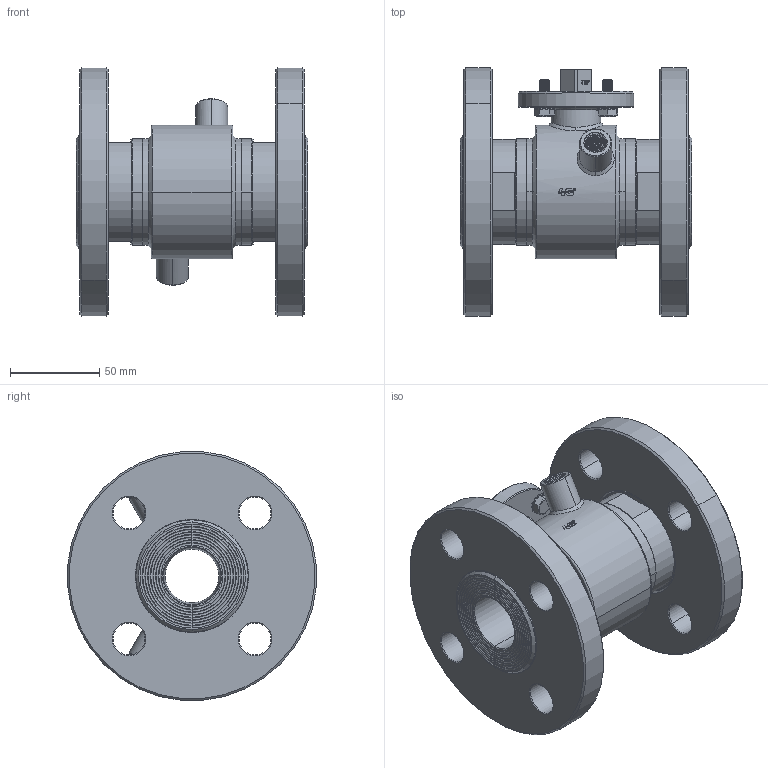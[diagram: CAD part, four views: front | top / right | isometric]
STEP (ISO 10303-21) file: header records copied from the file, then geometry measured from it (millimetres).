
FILE_DESCRIPTION((''),'2;1');
FILE_NAME('103050C6301F_SW0001','2026-03-30T11:34:27',('tecnico2'),('CDM Tecnoconsulting'),'CREO PARAMETRIC BY PTC INC, 2024063','CREO PARAMETRIC BY PTC INC, 2024063','');
FILE_SCHEMA(('CONFIG_CONTROL_DESIGN','SHAPE_APPEARANCE_LAYERS_GROUPS'));
Products named in the file (1): 103050C6301F_SW0001
Bounding box: 130 x 139.47 x 139.47 mm (x, y, z)
Volume: 693293.9 mm3; surface area: 161401.1 mm2
Topology: 1 solids, 1 shells, 2009 faces, 5470 edges, 3458 vertices
Faces by surface type: plane 785, cylinder 511, cone 230, extrusion 221, bspline 156, torus 102, sphere 4
Entity records: 149573 total; most frequent: CARTESIAN_POINT 85353, ORIENTED_EDGE 10924, DIRECTION 8078, PRESENTATION_STYLE_ASSIGNMENT 5537, STYLED_ITEM 5463, CURVE_STYLE 5462, EDGE_CURVE 5462, VERTEX_POINT 3458
